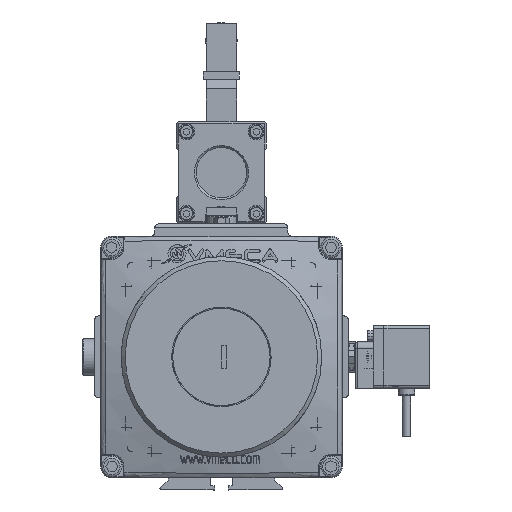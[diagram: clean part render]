
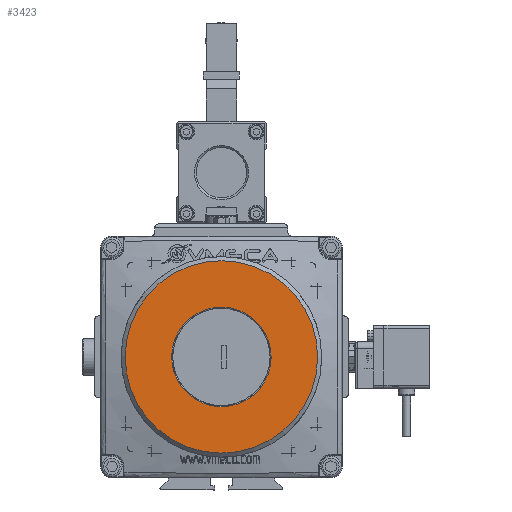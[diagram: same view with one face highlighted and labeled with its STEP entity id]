
A CAD part, left-side view. The second image highlights one B-rep face of the part: STEP entity #3423.
In plain terms, the highlighted planar face has unit normal (-1, 0, 0).
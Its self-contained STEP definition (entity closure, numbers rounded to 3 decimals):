
#3423 = ADVANCED_FACE( '', ( #8267, #8268 ), #8269, .F. );
#8267 = FACE_OUTER_BOUND( '', #15440, .T. );
#8268 = FACE_BOUND( '', #15441, .T. );
#8269 = PLANE( '', #15442 );
#15440 = EDGE_LOOP( '', ( #27089 ) );
#15441 = EDGE_LOOP( '', ( #27090 ) );
#15442 = AXIS2_PLACEMENT_3D( '', #27091, #27092, #27093 );
#27089 = ORIENTED_EDGE( '', *, *, #42114, .T. );
#27090 = ORIENTED_EDGE( '', *, *, #42115, .F. );
#27091 = CARTESIAN_POINT( '', ( -11., 0., 47. ) );
#27092 = DIRECTION( '', ( 1., 0., 0. ) );
#27093 = DIRECTION( '', ( 0., 1., 0. ) );
#42114 = EDGE_CURVE( '', #50803, #50803, #50804, .T. );
#42115 = EDGE_CURVE( '', #50805, #50805, #50806, .T. );
#50803 = VERTEX_POINT( '', #65031 );
#50804 = CIRCLE( '', #65032, 47. );
#50805 = VERTEX_POINT( '', #65033 );
#50806 = CIRCLE( '', #65034, 24.3 );
#65031 = CARTESIAN_POINT( '', ( -11., 0., 47. ) );
#65032 = AXIS2_PLACEMENT_3D( '', #76013, #76014, #76015 );
#65033 = CARTESIAN_POINT( '', ( -11., 0., 24.3 ) );
#65034 = AXIS2_PLACEMENT_3D( '', #76016, #76017, #76018 );
#76013 = CARTESIAN_POINT( '', ( -11., 0., 0. ) );
#76014 = DIRECTION( '', ( -1., 0., 0. ) );
#76015 = DIRECTION( '', ( 0., 0., 1. ) );
#76016 = CARTESIAN_POINT( '', ( -11., 0., 0. ) );
#76017 = DIRECTION( '', ( -1., 0., 0. ) );
#76018 = DIRECTION( '', ( 0., 0., 1. ) );
